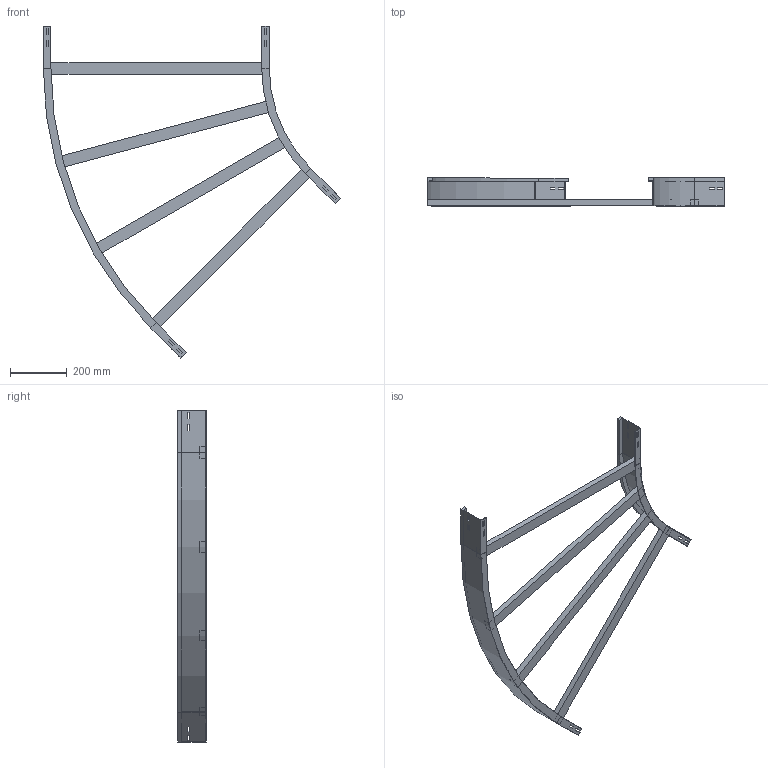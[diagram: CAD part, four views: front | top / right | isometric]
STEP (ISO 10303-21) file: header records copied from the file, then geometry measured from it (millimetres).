
FILE_DESCRIPTION (( 'STEP AP214' ), '1' );
FILE_NAME ('11B5D800.step', '2025-02-21T15:12:04', ( '' ), ( '' ), 'SwSTEP 2.0', 'SolidWorks 2023', '' );
FILE_SCHEMA (( 'AUTOMOTIVE_DESIGN' ));
Length unit declared in the file: millimetre
Products named in the file (4): A2_LONGH.INTERNO 45°_H100_R500; A2_LONGH.ESTERNO 45°_H100_R500+800; TRAVERSINO_800; 11B5D800
Assembly tree (6 placements, depth 2):
  11B5D800
    A2_LONGH.INTERNO 45°_H100_R500
    A2_LONGH.ESTERNO 45°_H100_R500+800
    TRAVERSINO_800  x4
Bounding box: 1052.51 x 100 x 1175.3 mm (x, y, z)
Volume: 3464174.8 mm3; surface area: 966363 mm2
Topology: 6 solids, 6 shells, 140 faces, 352 edges, 224 vertices
Faces by surface type: plane 132, cylinder 8
Entity records: 3829 total; most frequent: CARTESIAN_POINT 647, ORIENTED_EDGE 632, DIRECTION 594, EDGE_CURVE 316, LINE 300, VECTOR 300, VERTEX_POINT 200, EDGE_LOOP 154
